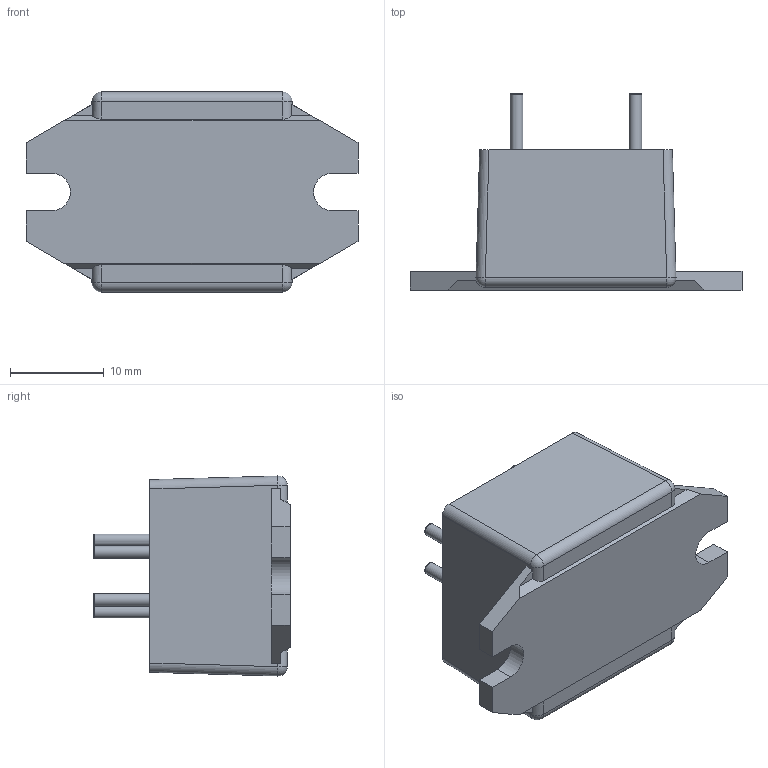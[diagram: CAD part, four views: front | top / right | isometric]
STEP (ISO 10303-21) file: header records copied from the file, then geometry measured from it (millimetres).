
FILE_DESCRIPTION(/* description */ (''),/* implementation_level */ '2;1');
FILE_NAME(/* name */ 'C:\Vault_local\Designs\Stock\3D pour clients\2D3D 600\2D3D 665 A.stp',/* time_stamp */ '2021-10-27T09:13:19+02:00',/* author */ ('fbros'),/* organization */ (''),/* preprocessor_version */ 'ST-DEVELOPER v17',/* originating_system */ 'Autodesk Inventor 2018',/* authorisation */ '');
FILE_SCHEMA (('AUTOMOTIVE_DESIGN { 1 0 10303 214 3 1 1 }'));
Length unit declared in the file: millimetre
Products named in the file (1): SF542310
Bounding box: 35.5 x 21 x 21.39 mm (x, y, z)
Volume: 6944.6 mm3; surface area: 2594.9 mm2
Topology: 1 solids, 1 shells, 56 faces, 150 edges, 96 vertices
Faces by surface type: plane 32, cylinder 16, torus 4, sphere 4
Full cylindrical faces by diameter (mm): 1.34 x4
Entity records: 1850 total; most frequent: DIRECTION 316, CARTESIAN_POINT 299, ORIENTED_EDGE 292, EDGE_CURVE 146, AXIS2_PLACEMENT_3D 113, VERTEX_POINT 96, LINE 90, VECTOR 90
